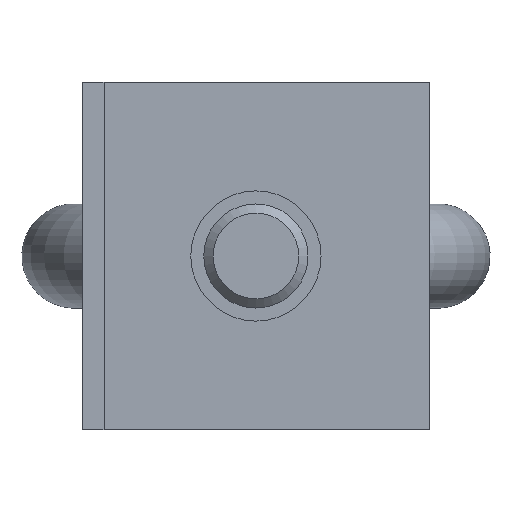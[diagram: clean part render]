
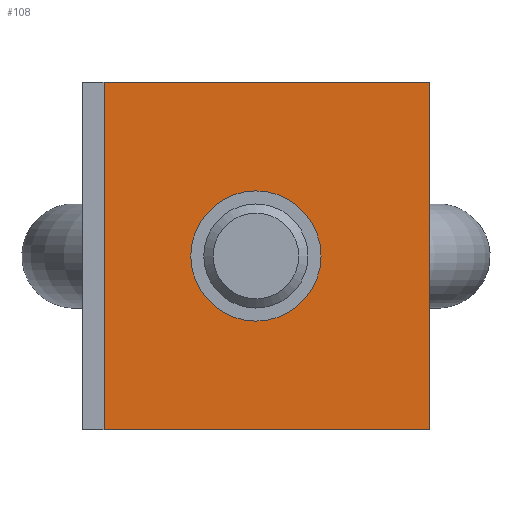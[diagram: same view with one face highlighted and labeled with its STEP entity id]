
A CAD part, front view. The second image highlights one B-rep face of the part: STEP entity #108.
In plain terms, the highlighted planar face has unit normal (0, -1, 0).
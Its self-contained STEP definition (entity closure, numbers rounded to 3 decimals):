
#108 = ADVANCED_FACE( '', ( #202, #203 ), #204, .F. );
#202 = FACE_BOUND( '', #293, .T. );
#203 = FACE_OUTER_BOUND( '', #294, .T. );
#204 = PLANE( '', #295 );
#293 = EDGE_LOOP( '', ( #410 ) );
#294 = EDGE_LOOP( '', ( #411, #412, #413, #414 ) );
#295 = AXIS2_PLACEMENT_3D( '', #415, #416, #417 );
#410 = ORIENTED_EDGE( '', *, *, #541, .T. );
#411 = ORIENTED_EDGE( '', *, *, #542, .T. );
#412 = ORIENTED_EDGE( '', *, *, #543, .F. );
#413 = ORIENTED_EDGE( '', *, *, #522, .F. );
#414 = ORIENTED_EDGE( '', *, *, #509, .T. );
#415 = CARTESIAN_POINT( '', ( -17.5, -2.5, 20. ) );
#416 = DIRECTION( '', ( 0., 1., 0. ) );
#417 = DIRECTION( '', ( 0., 0., 1. ) );
#509 = EDGE_CURVE( '', #574, #572, #575, .T. );
#522 = EDGE_CURVE( '', #574, #596, #597, .T. );
#541 = EDGE_CURVE( '', #625, #625, #626, .T. );
#542 = EDGE_CURVE( '', #572, #627, #628, .T. );
#543 = EDGE_CURVE( '', #596, #627, #629, .T. );
#572 = VERTEX_POINT( '', #662 );
#574 = VERTEX_POINT( '', #665 );
#575 = LINE( '', #666, #667 );
#596 = VERTEX_POINT( '', #714 );
#597 = LINE( '', #715, #716 );
#625 = VERTEX_POINT( '', #764 );
#626 = CIRCLE( '', #765, 7.5 );
#627 = VERTEX_POINT( '', #766 );
#628 = LINE( '', #767, #768 );
#629 = LINE( '', #769, #770 );
#662 = CARTESIAN_POINT( '', ( -17.5, -2.5, -20. ) );
#665 = CARTESIAN_POINT( '', ( -17.5, -2.5, 20. ) );
#666 = CARTESIAN_POINT( '', ( -17.5, -2.5, 20. ) );
#667 = VECTOR( '', #911, 1000. );
#714 = CARTESIAN_POINT( '', ( 20., -2.5, 20. ) );
#715 = CARTESIAN_POINT( '', ( -17.5, -2.5, 20. ) );
#716 = VECTOR( '', #925, 1000. );
#764 = CARTESIAN_POINT( '', ( 7.5, -2.5, 0. ) );
#765 = AXIS2_PLACEMENT_3D( '', #945, #946, #947 );
#766 = CARTESIAN_POINT( '', ( 20., -2.5, -20. ) );
#767 = CARTESIAN_POINT( '', ( -17.5, -2.5, -20. ) );
#768 = VECTOR( '', #948, 1000. );
#769 = CARTESIAN_POINT( '', ( 20., -2.5, 20. ) );
#770 = VECTOR( '', #949, 1000. );
#911 = DIRECTION( '', ( 0., 0., -1. ) );
#925 = DIRECTION( '', ( 1., 0., 0. ) );
#945 = CARTESIAN_POINT( '', ( 0., -2.5, 0. ) );
#946 = DIRECTION( '', ( 0., 1., 0. ) );
#947 = DIRECTION( '', ( 1., 0., 0. ) );
#948 = DIRECTION( '', ( 1., 0., 0. ) );
#949 = DIRECTION( '', ( 0., 0., -1. ) );
